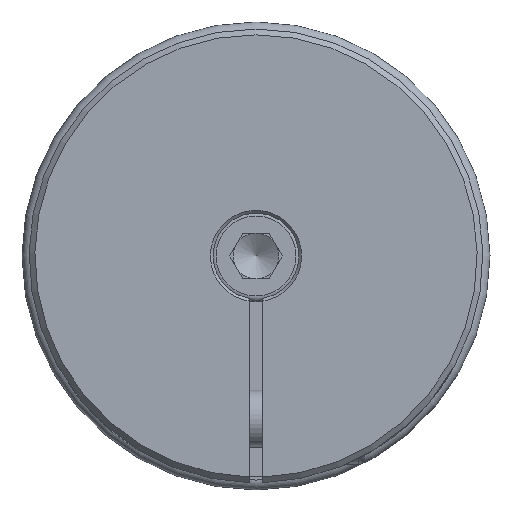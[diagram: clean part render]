
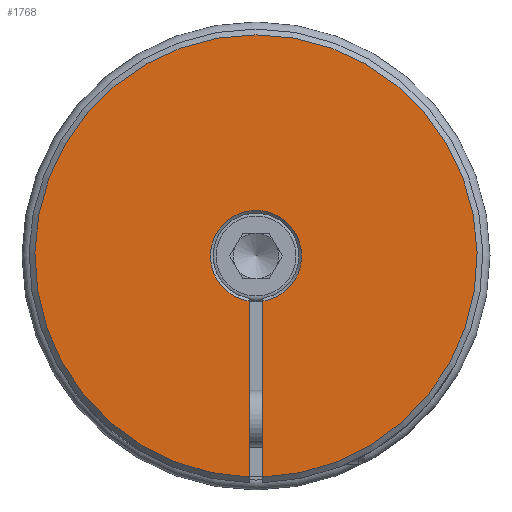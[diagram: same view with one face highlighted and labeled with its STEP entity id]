
A CAD part, left-side view. The second image highlights one B-rep face of the part: STEP entity #1768.
In plain terms, the highlighted planar face has unit normal (-1, 0, 0).
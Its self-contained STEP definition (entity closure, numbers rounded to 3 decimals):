
#108=LINE('',#3176,#197);
#109=LINE('',#3178,#198);
#197=VECTOR('',#2565,1000.);
#198=VECTOR('',#2566,1000.);
#309=PLANE('',#2017);
#679=ORIENTED_EDGE('',*,*,#924,.F.);
#680=ORIENTED_EDGE('',*,*,#922,.F.);
#681=ORIENTED_EDGE('',*,*,#925,.F.);
#682=ORIENTED_EDGE('',*,*,#926,.T.);
#922=EDGE_CURVE('',#1090,#1091,#1208,.T.);
#924=EDGE_CURVE('',#1091,#1092,#108,.T.);
#925=EDGE_CURVE('',#1093,#1090,#109,.T.);
#926=EDGE_CURVE('',#1093,#1092,#1210,.T.);
#1090=VERTEX_POINT('',#3171);
#1091=VERTEX_POINT('',#3173);
#1092=VERTEX_POINT('',#3177);
#1093=VERTEX_POINT('',#3179);
#1208=CIRCLE('',#2015,8.);
#1210=CIRCLE('',#2018,38.75);
#1405=EDGE_LOOP('',(#679,#680,#681,#682));
#1612=FACE_BOUND('',#1405,.T.);
#1768=ADVANCED_FACE('',(#1612),#309,.T.);
#2015=AXIS2_PLACEMENT_3D('',#3172,#2559,#2560);
#2017=AXIS2_PLACEMENT_3D('',#3175,#2563,#2564);
#2018=AXIS2_PLACEMENT_3D('',#3180,#2567,#2568);
#2559=DIRECTION('',(-1.,0.,0.));
#2560=DIRECTION('',(0.,0.,1.));
#2563=DIRECTION('',(-1.,0.,0.));
#2564=DIRECTION('',(0.,0.,1.));
#2565=DIRECTION('',(0.,0.,-1.));
#2566=DIRECTION('',(0.,0.,1.));
#2567=DIRECTION('',(-1.,0.,0.));
#2568=DIRECTION('',(0.,0.,1.));
#3171=CARTESIAN_POINT('',(-54.2,-1.2,-7.909));
#3172=CARTESIAN_POINT('',(-54.2,0.,0.));
#3173=CARTESIAN_POINT('',(-54.2,1.2,-7.909));
#3175=CARTESIAN_POINT('',(-54.2,0.,7.5));
#3176=CARTESIAN_POINT('',(-54.2,1.2,-6.));
#3177=CARTESIAN_POINT('',(-54.2,1.2,-38.731));
#3178=CARTESIAN_POINT('',(-54.2,-1.2,-6.));
#3179=CARTESIAN_POINT('',(-54.2,-1.2,-38.731));
#3180=CARTESIAN_POINT('',(-54.2,0.,0.));
